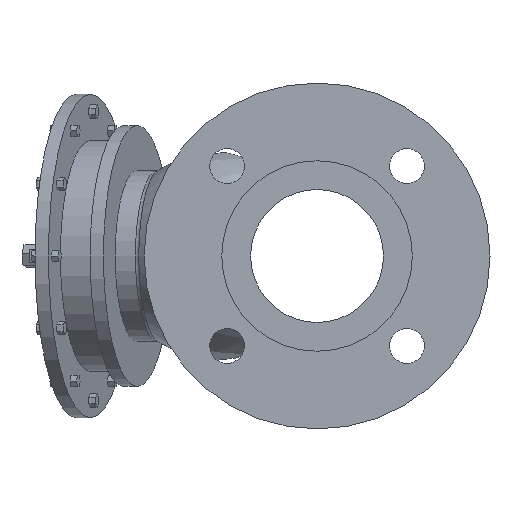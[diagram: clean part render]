
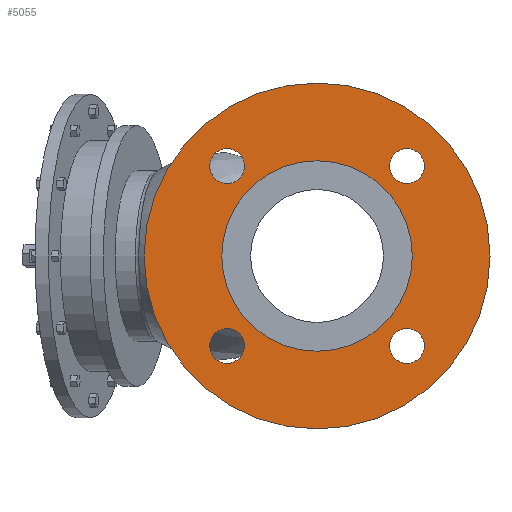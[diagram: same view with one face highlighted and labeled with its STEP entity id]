
A CAD part, left-side view. The second image highlights one B-rep face of the part: STEP entity #5055.
In plain terms, the highlighted planar face has unit normal (-1, 0, 0).
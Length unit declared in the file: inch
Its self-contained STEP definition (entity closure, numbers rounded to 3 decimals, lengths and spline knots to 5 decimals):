
#256=PLANE('',#5404);
#523=FACE_OUTER_BOUND('',#979,.T.);
#531=CIRCLE('',#5085,0.375);
#533=CIRCLE('',#5088,0.375);
#535=CIRCLE('',#5091,0.375);
#537=CIRCLE('',#5094,0.375);
#610=CIRCLE('',#5402,2.06);
#611=CIRCLE('',#5403,2.06);
#612=CIRCLE('',#5405,3.74);
#613=CIRCLE('',#5406,3.74);
#667=FACE_BOUND('',#980,.T.);
#668=FACE_BOUND('',#981,.T.);
#669=FACE_BOUND('',#982,.T.);
#670=FACE_BOUND('',#983,.T.);
#671=FACE_BOUND('',#984,.T.);
#979=EDGE_LOOP('',(#4463,#4464));
#980=EDGE_LOOP('',(#4465));
#981=EDGE_LOOP('',(#4466));
#982=EDGE_LOOP('',(#4467));
#983=EDGE_LOOP('',(#4468));
#984=EDGE_LOOP('',(#4469,#4470));
#2093=VERTEX_POINT('',#6683);
#2095=VERTEX_POINT('',#6689);
#2097=VERTEX_POINT('',#6695);
#2099=VERTEX_POINT('',#6701);
#2526=VERTEX_POINT('',#9178);
#2527=VERTEX_POINT('',#9179);
#2528=VERTEX_POINT('',#9184);
#2529=VERTEX_POINT('',#9185);
#2542=EDGE_CURVE('',#2093,#2093,#531,.T.);
#2545=EDGE_CURVE('',#2095,#2095,#533,.T.);
#2548=EDGE_CURVE('',#2097,#2097,#535,.T.);
#2551=EDGE_CURVE('',#2099,#2099,#537,.T.);
#3181=EDGE_CURVE('',#2526,#2527,#610,.T.);
#3182=EDGE_CURVE('',#2527,#2526,#611,.T.);
#3184=EDGE_CURVE('',#2528,#2529,#612,.T.);
#3185=EDGE_CURVE('',#2529,#2528,#613,.T.);
#4463=ORIENTED_EDGE('',*,*,#3184,.F.);
#4464=ORIENTED_EDGE('',*,*,#3185,.F.);
#4465=ORIENTED_EDGE('',*,*,#2542,.T.);
#4466=ORIENTED_EDGE('',*,*,#2545,.T.);
#4467=ORIENTED_EDGE('',*,*,#2548,.T.);
#4468=ORIENTED_EDGE('',*,*,#2551,.T.);
#4469=ORIENTED_EDGE('',*,*,#3181,.T.);
#4470=ORIENTED_EDGE('',*,*,#3182,.T.);
#5055=ADVANCED_FACE('',(#523,#667,#668,#669,#670,#671),#256,.T.);
#5085=AXIS2_PLACEMENT_3D('',#6684,#5444,#5445);
#5088=AXIS2_PLACEMENT_3D('',#6690,#5451,#5452);
#5091=AXIS2_PLACEMENT_3D('',#6696,#5458,#5459);
#5094=AXIS2_PLACEMENT_3D('',#6702,#5465,#5466);
#5402=AXIS2_PLACEMENT_3D('',#9180,#6593,#6594);
#5403=AXIS2_PLACEMENT_3D('',#9181,#6595,#6596);
#5404=AXIS2_PLACEMENT_3D('',#9183,#6598,#6599);
#5405=AXIS2_PLACEMENT_3D('',#9186,#6600,#6601);
#5406=AXIS2_PLACEMENT_3D('',#9187,#6602,#6603);
#5444=DIRECTION('center_axis',(1.,0.,0.));
#5445=DIRECTION('ref_axis',(0.,1.,0.));
#5451=DIRECTION('center_axis',(1.,0.,0.));
#5452=DIRECTION('ref_axis',(0.,0.,-1.));
#5458=DIRECTION('center_axis',(1.,0.,0.));
#5459=DIRECTION('ref_axis',(0.,-1.,0.));
#5465=DIRECTION('center_axis',(1.,0.,0.));
#5466=DIRECTION('ref_axis',(0.,0.,1.));
#6593=DIRECTION('center_axis',(1.,0.,0.));
#6594=DIRECTION('ref_axis',(0.,0.,-1.));
#6595=DIRECTION('center_axis',(1.,0.,0.));
#6596=DIRECTION('ref_axis',(0.,0.,-1.));
#6598=DIRECTION('center_axis',(-1.,0.,0.));
#6599=DIRECTION('ref_axis',(0.,0.,1.));
#6600=DIRECTION('center_axis',(1.,0.,0.));
#6601=DIRECTION('ref_axis',(0.,0.,-1.));
#6602=DIRECTION('center_axis',(1.,0.,0.));
#6603=DIRECTION('ref_axis',(0.,0.,-1.));
#6683=CARTESIAN_POINT('',(-4.075,-2.31954,-1.94454));
#6684=CARTESIAN_POINT('Origin',(-4.075,-1.94454,-1.94454));
#6689=CARTESIAN_POINT('',(-4.075,-1.94454,2.31954));
#6690=CARTESIAN_POINT('Origin',(-4.075,-1.94454,1.94454));
#6695=CARTESIAN_POINT('',(-4.075,2.31954,1.94454));
#6696=CARTESIAN_POINT('Origin',(-4.075,1.94454,1.94454));
#6701=CARTESIAN_POINT('',(-4.075,1.94454,-2.31954));
#6702=CARTESIAN_POINT('Origin',(-4.075,1.94454,-1.94454));
#9178=CARTESIAN_POINT('',(-4.075,2.06,0.));
#9179=CARTESIAN_POINT('',(-4.075,-2.06,0.));
#9180=CARTESIAN_POINT('Origin',(-4.075,0.,0.));
#9181=CARTESIAN_POINT('Origin',(-4.075,0.,0.));
#9183=CARTESIAN_POINT('Origin',(-4.075,3.74,0.));
#9184=CARTESIAN_POINT('',(-4.075,3.74,0.));
#9185=CARTESIAN_POINT('',(-4.075,-3.74,0.));
#9186=CARTESIAN_POINT('Origin',(-4.075,0.,0.));
#9187=CARTESIAN_POINT('Origin',(-4.075,0.,0.));
